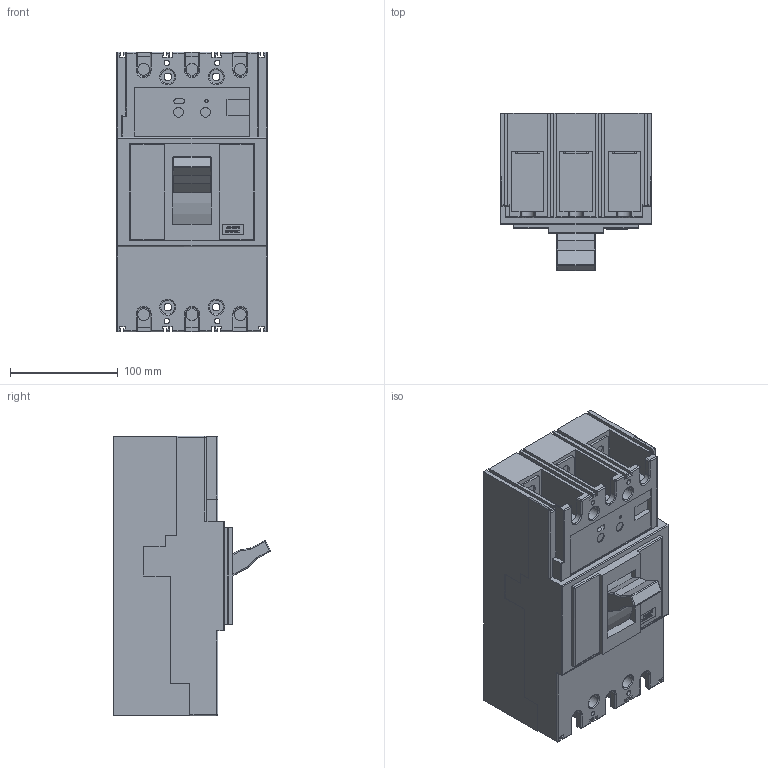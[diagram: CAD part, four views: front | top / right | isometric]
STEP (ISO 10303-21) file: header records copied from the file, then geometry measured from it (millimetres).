
FILE_DESCRIPTION((''),'2;1');
FILE_NAME('S400CJ3400','2012-09-20T',('cmahecha'),(''),'PRO/ENGINEER BY PARAMETRIC TECHNOLOGY CORPORATION, 2010280','PRO/ENGINEER BY PARAMETRIC TECHNOLOGY CORPORATION, 2010280','');
FILE_SCHEMA(('CONFIG_CONTROL_DESIGN'));
Length unit declared in the file: millimetre
Products named in the file (1): S400CJ3400
Bounding box: 140.4 x 145.93 x 260 mm (x, y, z)
Volume: 3315289.9 mm3; surface area: 221600.4 mm2
Topology: 1 solids, 1 shells, 793 faces, 2168 edges, 1416 vertices
Faces by surface type: plane 623, cylinder 142, sphere 14, torus 14
Entity records: 24888 total; most frequent: CARTESIAN_POINT 4567, ORIENTED_EDGE 4336, DIRECTION 3974, EDGE_CURVE 2168, VECTOR 1888, LINE 1888, VERTEX_POINT 1416, AXIS2_PLACEMENT_3D 1043
